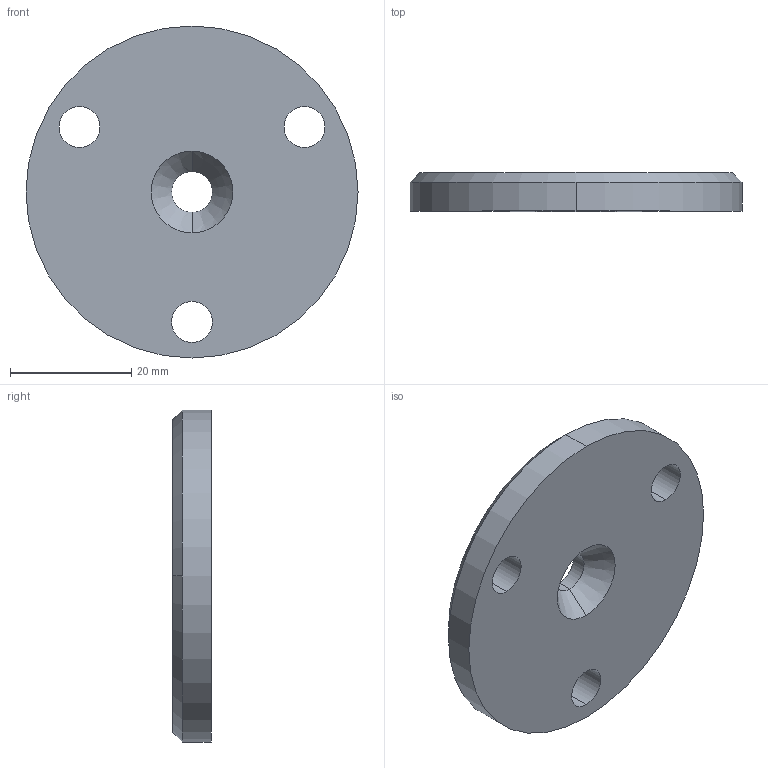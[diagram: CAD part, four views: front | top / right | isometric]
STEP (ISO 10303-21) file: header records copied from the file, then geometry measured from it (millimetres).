
FILE_DESCRIPTION (( 'STEP AP203' ), '1' );
FILE_NAME ('FDPCK-MC1-FLANGE.step', '2019-09-11T18:33:14', ( 'ydmin' ), ( '' ), 'SwSTEP 2.0', 'SolidWorks 2017', '' );
FILE_SCHEMA (( 'CONFIG_CONTROL_DESIGN' ));
Length unit declared in the file: inch
Products named in the file (1): FDPCK-MC1-FLANGE
Bounding box: 54.77 x 6.35 x 54.77 mm (x, y, z)
Volume: 13652.4 mm3; surface area: 5867.3 mm2
Topology: 1 solids, 1 shells, 16 faces, 40 edges, 26 vertices
Faces by surface type: cylinder 10, cone 4, plane 2
Entity records: 589 total; most frequent: DIRECTION 100, CARTESIAN_POINT 83, ORIENTED_EDGE 80, AXIS2_PLACEMENT_3D 43, EDGE_CURVE 40, CIRCLE 26, VERTEX_POINT 26, EDGE_LOOP 24
